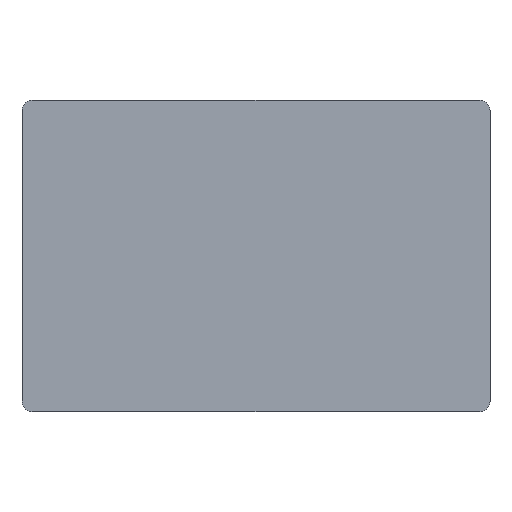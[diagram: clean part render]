
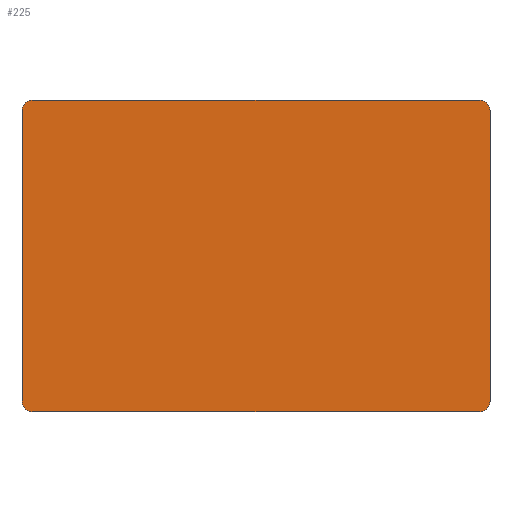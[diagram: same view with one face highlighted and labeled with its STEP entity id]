
A CAD part, top view. The second image highlights one B-rep face of the part: STEP entity #225.
In plain terms, the highlighted planar face has unit normal (0, 0, 1).
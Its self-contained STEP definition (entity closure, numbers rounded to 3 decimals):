
#2 = AXIS2_PLACEMENT_3D ( 'NONE', #311, #34, #314 ) ;
#8 = DIRECTION ( 'NONE',  ( 0., 0., 1. ) ) ;
#11 = EDGE_CURVE ( 'NONE', #38, #68, #83, .T. ) ;
#16 = CIRCLE ( 'NONE', #85, 3.6 ) ;
#18 = CARTESIAN_POINT ( 'NONE',  ( 78.5, 48.65, 8. ) ) ;
#20 = EDGE_CURVE ( 'NONE', #86, #21, #102, .T. ) ;
#21 = VERTEX_POINT ( 'NONE', #109 ) ;
#24 = DIRECTION ( 'NONE',  ( -1., 0., 0. ) ) ;
#25 = AXIS2_PLACEMENT_3D ( 'NONE', #284, #50, #134 ) ;
#31 = EDGE_CURVE ( 'NONE', #269, #192, #211, .T. ) ;
#34 = DIRECTION ( 'NONE',  ( 0., 0., 1. ) ) ;
#38 = VERTEX_POINT ( 'NONE', #112 ) ;
#42 = DIRECTION ( 'NONE',  ( 0., -1., 0. ) ) ;
#49 = LINE ( 'NONE', #176, #53 ) ;
#50 = DIRECTION ( 'NONE',  ( 0., 0., -1. ) ) ;
#51 = CARTESIAN_POINT ( 'NONE',  ( -74.9, 52.25, 8. ) ) ;
#53 = VECTOR ( 'NONE', #172, 1000. ) ;
#65 = DIRECTION ( 'NONE',  ( -1., 0., 0. ) ) ;
#68 = VERTEX_POINT ( 'NONE', #143 ) ;
#70 = DIRECTION ( 'NONE',  ( 0., 0., 1. ) ) ;
#78 = DIRECTION ( 'NONE',  ( 1., 0., 0. ) ) ;
#83 = LINE ( 'NONE', #144, #98 ) ;
#85 = AXIS2_PLACEMENT_3D ( 'NONE', #279, #249, #24 ) ;
#86 = VERTEX_POINT ( 'NONE', #18 ) ;
#98 = VECTOR ( 'NONE', #42, 1000. ) ;
#102 = CIRCLE ( 'NONE', #2, 3.6 ) ;
#109 = CARTESIAN_POINT ( 'NONE',  ( 74.9, 52.25, 8. ) ) ;
#112 = CARTESIAN_POINT ( 'NONE',  ( -78.5, 48.65, 8. ) ) ;
#125 = ORIENTED_EDGE ( 'NONE', *, *, #11, .T. ) ;
#134 = DIRECTION ( 'NONE',  ( -1., 0., 0. ) ) ;
#143 = CARTESIAN_POINT ( 'NONE',  ( -78.5, -48.65, 8. ) ) ;
#144 = CARTESIAN_POINT ( 'NONE',  ( -78.5, -52.25, 8. ) ) ;
#145 = ORIENTED_EDGE ( 'NONE', *, *, #326, .T. ) ;
#148 = VERTEX_POINT ( 'NONE', #205 ) ;
#151 = AXIS2_PLACEMENT_3D ( 'NONE', #233, #8, #65 ) ;
#153 = CARTESIAN_POINT ( 'NONE',  ( 78.5, -48.65, 8. ) ) ;
#159 = EDGE_LOOP ( 'NONE', ( #125, #166, #171, #266, #218, #216, #145, #321 ) ) ;
#161 = VERTEX_POINT ( 'NONE', #51 ) ;
#166 = ORIENTED_EDGE ( 'NONE', *, *, #287, .T. ) ;
#171 = ORIENTED_EDGE ( 'NONE', *, *, #247, .T. ) ;
#172 = DIRECTION ( 'NONE',  ( -1., 0., 0. ) ) ;
#176 = CARTESIAN_POINT ( 'NONE',  ( 78.5, 52.25, 8. ) ) ;
#177 = CARTESIAN_POINT ( 'NONE',  ( -74.9, -48.65, 8. ) ) ;
#179 = CARTESIAN_POINT ( 'NONE',  ( 78.5, -52.25, 8. ) ) ;
#180 = CARTESIAN_POINT ( 'NONE',  ( 74.9, -52.25, 8. ) ) ;
#182 = EDGE_CURVE ( 'NONE', #192, #86, #202, .T. ) ;
#192 = VERTEX_POINT ( 'NONE', #153 ) ;
#197 = AXIS2_PLACEMENT_3D ( 'NONE', #177, #70, #280 ) ;
#202 = LINE ( 'NONE', #179, #290 ) ;
#205 = CARTESIAN_POINT ( 'NONE',  ( -74.9, -52.25, 8. ) ) ;
#211 = CIRCLE ( 'NONE', #151, 3.6 ) ;
#216 = ORIENTED_EDGE ( 'NONE', *, *, #20, .T. ) ;
#218 = ORIENTED_EDGE ( 'NONE', *, *, #182, .T. ) ;
#225 = ADVANCED_FACE ( 'NONE', ( #258 ), #281, .F. ) ;
#233 = CARTESIAN_POINT ( 'NONE',  ( 74.9, -48.65, 8. ) ) ;
#247 = EDGE_CURVE ( 'NONE', #148, #269, #309, .T. ) ;
#249 = DIRECTION ( 'NONE',  ( 0., 0., 1. ) ) ;
#254 = VECTOR ( 'NONE', #78, 1000. ) ;
#258 = FACE_OUTER_BOUND ( 'NONE', #159, .T. ) ;
#259 = CARTESIAN_POINT ( 'NONE',  ( 78.5, -52.25, 8. ) ) ;
#261 = DIRECTION ( 'NONE',  ( 0., 1., 0. ) ) ;
#266 = ORIENTED_EDGE ( 'NONE', *, *, #31, .T. ) ;
#269 = VERTEX_POINT ( 'NONE', #180 ) ;
#279 = CARTESIAN_POINT ( 'NONE',  ( -74.9, 48.65, 8. ) ) ;
#280 = DIRECTION ( 'NONE',  ( -1., 0., 0. ) ) ;
#281 = PLANE ( 'NONE',  #25 ) ;
#284 = CARTESIAN_POINT ( 'NONE',  ( 0., 0., 8. ) ) ;
#287 = EDGE_CURVE ( 'NONE', #68, #148, #323, .T. ) ;
#290 = VECTOR ( 'NONE', #261, 1000. ) ;
#309 = LINE ( 'NONE', #259, #254 ) ;
#311 = CARTESIAN_POINT ( 'NONE',  ( 74.9, 48.65, 8. ) ) ;
#313 = EDGE_CURVE ( 'NONE', #161, #38, #16, .T. ) ;
#314 = DIRECTION ( 'NONE',  ( -1., 0., 0. ) ) ;
#321 = ORIENTED_EDGE ( 'NONE', *, *, #313, .T. ) ;
#323 = CIRCLE ( 'NONE', #197, 3.6 ) ;
#326 = EDGE_CURVE ( 'NONE', #21, #161, #49, .T. ) ;
